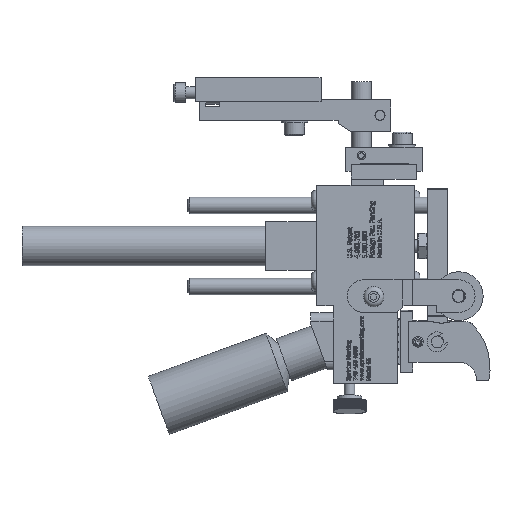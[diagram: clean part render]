
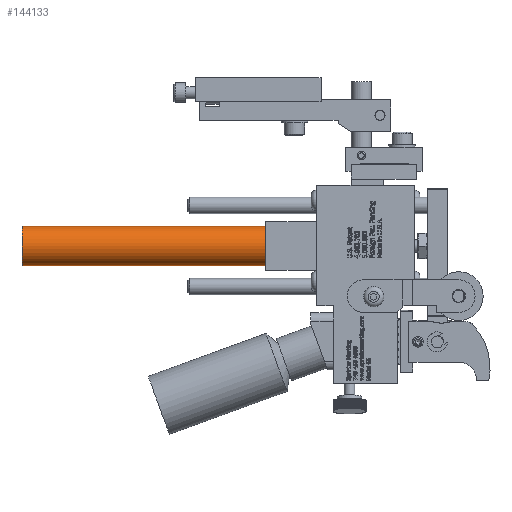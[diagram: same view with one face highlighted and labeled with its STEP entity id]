
A CAD part, top view. The second image highlights one B-rep face of the part: STEP entity #144133.
In plain terms, the highlighted cylindrical face has radius 7.747 mm (diameter 15.494 mm), a full revolution.
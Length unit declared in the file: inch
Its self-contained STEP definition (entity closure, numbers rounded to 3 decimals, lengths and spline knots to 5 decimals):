
#144106=CARTESIAN_POINT('',(0.2202,0.36387,0.375));
#144107=DIRECTION('',(1.0,0.,0.0));
#144108=DIRECTION('',(0.0,0.0,1.0));
#144109=AXIS2_PLACEMENT_3D('',#144106,#144107,#144108);
#144110=CYLINDRICAL_SURFACE('',#144109,0.305);
#144111=CARTESIAN_POINT('',(3.9752,0.36387,0.07));
#144112=VERTEX_POINT('',#144111);
#144113=CARTESIAN_POINT('',(3.9752,0.36387,0.375));
#144114=DIRECTION('',(-1.0,0.0,0.0));
#144115=DIRECTION('',(0.0,0.0,1.0));
#144116=AXIS2_PLACEMENT_3D('',#144113,#144114,#144115);
#144117=CIRCLE('',#144116,0.305);
#144118=EDGE_CURVE('',#144112,#144112,#144117,.T.);
#144119=ORIENTED_EDGE('',*,*,#144118,.T.);
#144120=EDGE_LOOP('',(#144119));
#144121=FACE_OUTER_BOUND('',#144120,.T.);
#144122=CARTESIAN_POINT('',(0.2202,0.36387,0.07));
#144123=VERTEX_POINT('',#144122);
#144124=CARTESIAN_POINT('',(0.2202,0.36387,0.375));
#144125=DIRECTION('',(-1.0,0.0,0.0));
#144126=DIRECTION('',(0.0,0.0,1.0));
#144127=AXIS2_PLACEMENT_3D('',#144124,#144125,#144126);
#144128=CIRCLE('',#144127,0.305);
#144129=EDGE_CURVE('',#144123,#144123,#144128,.T.);
#144130=ORIENTED_EDGE('',*,*,#144129,.F.);
#144131=EDGE_LOOP('',(#144130));
#144132=FACE_BOUND('',#144131,.T.);
#144133=ADVANCED_FACE('',(#144121,#144132),#144110,.T.);
